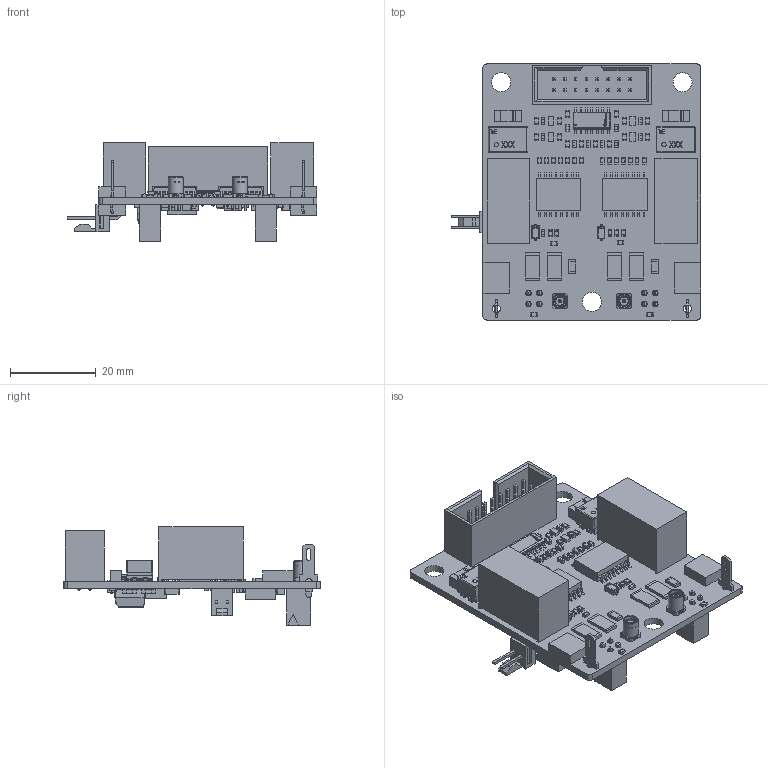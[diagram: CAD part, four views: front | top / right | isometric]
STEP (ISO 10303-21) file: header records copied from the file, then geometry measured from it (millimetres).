
FILE_DESCRIPTION(('Open CASCADE Model'),'2;1');
FILE_NAME('Open CASCADE Shape Model','2025-07-23T16:02:26',('Author'),( 'Open CASCADE'),'Open CASCADE STEP processor 7.5','Open CASCADE 7.5' ,'Unknown');
FILE_SCHEMA(('AUTOMOTIVE_DESIGN { 1 0 10303 214 1 1 1 1 }'));
Length unit declared in the file: millimetre
Products named in the file (260): PCB; Board; Open CASCADE STEP translator 7.5 1.1.1; UT1; IC_Texas_Instruments_OPA4191IDR_eec; IC_BODY; circle; IC_LEG; IC_LEG_MIR8; Texas Instruments; UB3; PW0016AakaMTC16; BODY_MTC16; LEAD_MTC16; UT3; SOIC-16W; 7016502096; Extruded; UT2; UB8; 7016511376; UB6; UB5; UB7; UB4; 7016512096; UT5; RECOM_2W; RECOM_2W.step; UT4; JB2; 6926933232; Body; LeadsArray; JB3; LT1; 744229; Boden; Deckel; LT2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
Assembly tree (505 placements, depth 5):
  PCB
    Board
      Open CASCADE STEP translator 7.5 1.1.1
    UT1
      IC_Texas_Instruments_OPA4191IDR_eec
        IC_BODY
        circle
        IC_LEG  x7
        IC_LEG_MIR8  x7
        Texas Instruments
    UB3
      PW0016AakaMTC16
        BODY_MTC16
        LEAD_MTC16  x16
    UT3
      SOIC-16W
      7016502096
        Extruded
    UT2
      SOIC-16W
      7016502096
        Extruded
    UB8
      7016511376
        Extruded
    UB6
      7016511376
        Extruded
    UB5
      7016511376
        Extruded
    UB7
      7016511376
        Extruded
    UB4
      7016512096
        Extruded
    UT5
      RECOM_2W
        RECOM_2W.step
    UT4
      RECOM_2W
        RECOM_2W.step
    JB2
      6926933232
        Body
        LeadsArray
    JB3
      6926933232
        Body
        LeadsArray
    LT1
      744229
        Boden
        Boden
        Boden
        Boden
        Boden
        Deckel
    LT2
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Bounding box: 58.2 x 59.69 x 22.93 mm (x, y, z)
Volume: 14389.8 mm3; surface area: 19198.7 mm2
Topology: 612 solids, 613 shells, 10650 faces, 25290 edges, 15679 vertices
Faces by surface type: plane 7199, cylinder 1895, bspline 879, sphere 561, torus 92, cone 24
Full cylindrical faces by diameter (mm): 0.4 x1, 0.7 x4, 0.805 x4, 0.84 x10, 0.844 x1, 0.94 x16, 1 x2, 1.016 x10, 1.02 x2, 1.3 x8, 1.904 x2, 1.959 x4, 2 x2, 2.41 x2, 2.89 x2, 3.02 x2, 3.5 x2, 4.446 x3
Entity records: 119695 total; most frequent: CARTESIAN_POINT 30424, ORIENTED_EDGE 16081, DIRECTION 15017, EDGE_CURVE 8041, LINE 5825, VECTOR 5825, VERTEX_POINT 5103, AXIS2_PLACEMENT_3D 4596
